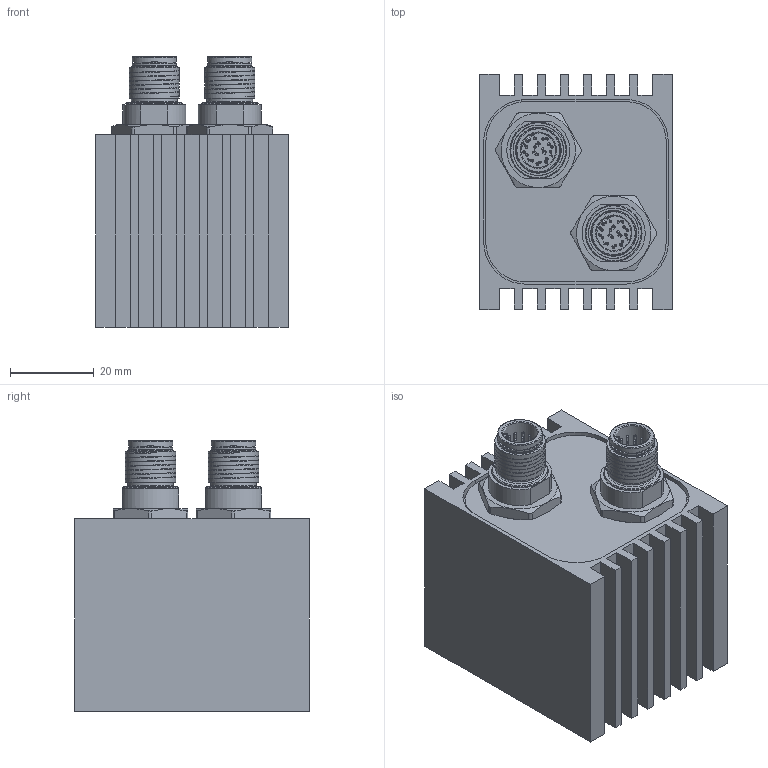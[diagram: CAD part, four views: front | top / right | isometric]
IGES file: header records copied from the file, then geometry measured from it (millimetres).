
Global section: file name: 153-13542_LS 55x46 xK 24 A13 2L12 Spotlicht_1; native system: Autodesk Inventor 2018; preprocessor: unknown; date: 20191203.083645; units: millimetre
Bounding box: 46 x 56 x 64.6 mm (x, y, z)
Volume: 108602.6 mm3; surface area: 29932.7 mm2
Topology: 3 solids, 4 shells, 760 faces, 2123 edges, 1445 vertices
Faces by surface type: bspline 760
